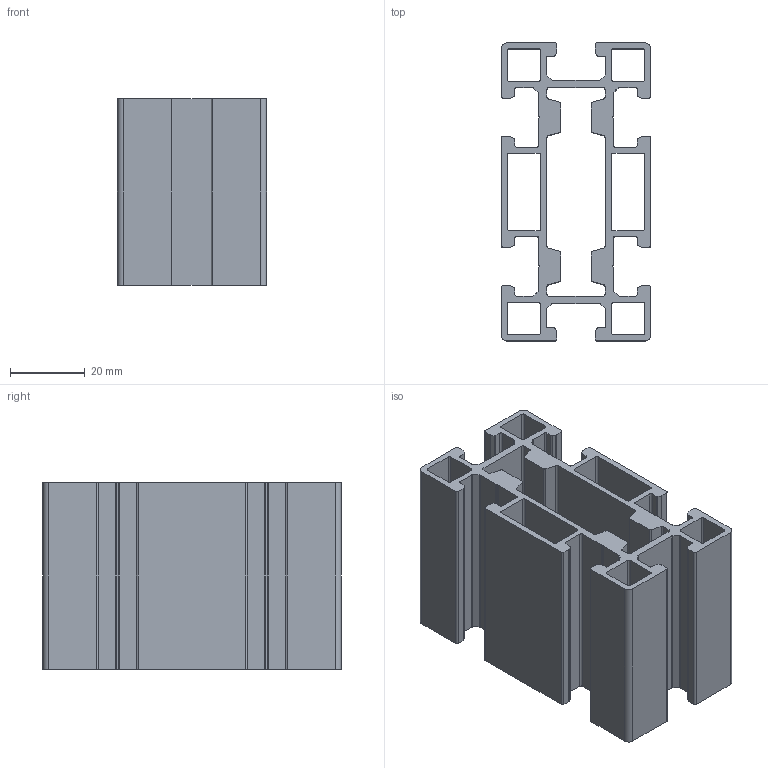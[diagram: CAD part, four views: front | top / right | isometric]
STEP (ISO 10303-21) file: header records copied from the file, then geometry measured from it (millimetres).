
FILE_DESCRIPTION(('STEP AP214'),'1');
FILE_NAME('F48L-.stp','2017-07-14T08:07:15',(' '),(' '),'Spatial InterOp 3D',' ',' ');
FILE_SCHEMA(('automotive_design'));
Length unit declared in the file: millimetre
Products named in the file (1): F48L-
Bounding box: 40 x 80 x 50 mm (x, y, z)
Volume: 47232 mm3; surface area: 43185.6 mm2
Topology: 1 solids, 1 shells, 264 faces, 786 edges, 524 vertices
Faces by surface type: plane 136, cylinder 128
Entity records: 11082 total; most frequent: CARTESIAN_POINT 1575, DIRECTION 1572, ORIENTED_EDGE 1572, EDGE_CURVE 786, LINE 530, VECTOR 530, VERTEX_POINT 524, AXIS2_PLACEMENT_3D 521
